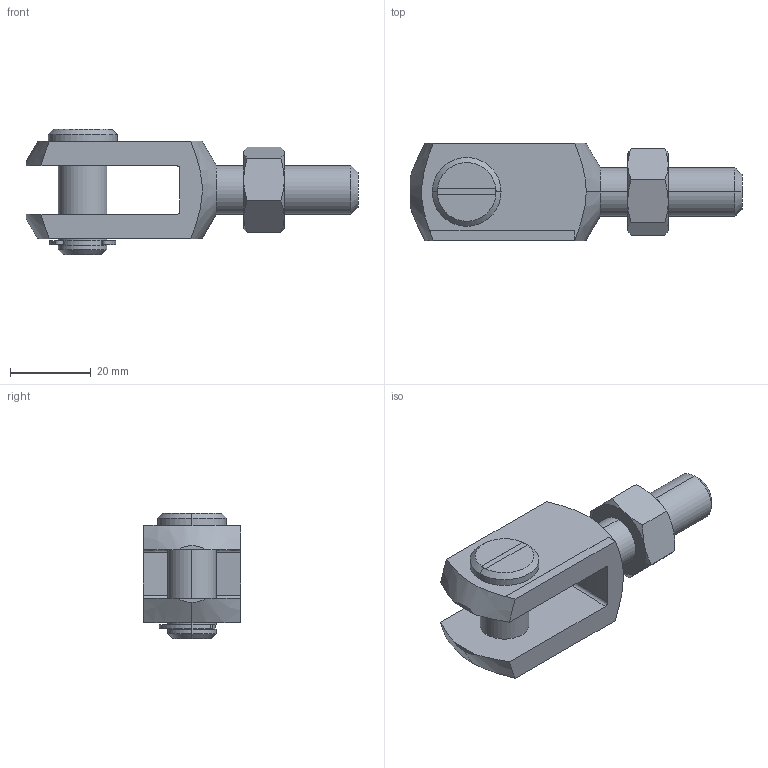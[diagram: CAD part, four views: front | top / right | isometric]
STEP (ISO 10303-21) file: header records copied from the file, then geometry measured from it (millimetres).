
FILE_DESCRIPTION (( 'STEP AP214' ), '1' );
FILE_NAME ('Chape fourche 12.STEP', '2016-11-20T06:59:35', ( 'Hubert' ), ( '' ), 'SwSTEP 2.0', 'SolidWorks 2014', '' );
FILE_SCHEMA (( 'AUTOMOTIVE_DESIGN' ));
Length unit declared in the file: millimetre
Products named in the file (5): 10_00_6799_0080_000; 10_000934_0012; 10_79_0000_0012; Chape 12 fourche; Chape fourche 12
Assembly tree (4 placements, depth 2):
  Chape fourche 12
    Chape 12 fourche
    10_79_0000_0012
    10_000934_0012
    10_00_6799_0080_000
Bounding box: 82 x 24 x 31 mm (x, y, z)
Volume: 22710.1 mm3; surface area: 10410.9 mm2
Topology: 4 solids, 4 shells, 114 faces, 275 edges, 172 vertices
Faces by surface type: plane 41, cylinder 39, cone 31, torus 3
Entity records: 4370 total; most frequent: CARTESIAN_POINT 951, DIRECTION 585, ORIENTED_EDGE 550, EDGE_CURVE 275, AXIS2_PLACEMENT_3D 237, VERTEX_POINT 172, EDGE_LOOP 123, CIRCLE 116
